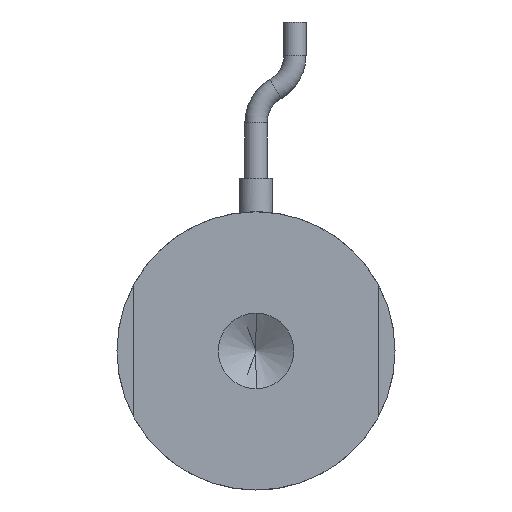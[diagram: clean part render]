
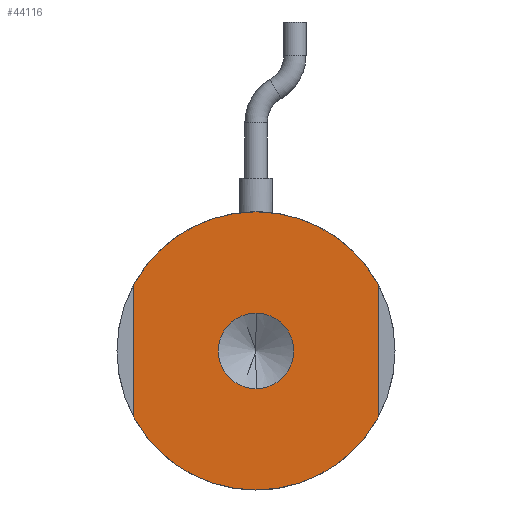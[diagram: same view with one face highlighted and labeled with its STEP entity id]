
A CAD part, front view. The second image highlights one B-rep face of the part: STEP entity #44116.
In plain terms, the highlighted planar face has unit normal (0, -1, 0).
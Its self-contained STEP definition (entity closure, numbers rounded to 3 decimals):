
#804 = DIRECTION ( 'NONE',  ( 0., 0., -1. ) ) ;
#1651 = CARTESIAN_POINT ( 'NONE',  ( 11., 0., 0. ) ) ;
#1785 = DIRECTION ( 'NONE',  ( 0., 0., 1. ) ) ;
#2776 = CARTESIAN_POINT ( 'NONE',  ( 11., 0., -5.937 ) ) ;
#3711 = CIRCLE ( 'NONE', #39500, 12.5 ) ;
#4818 = AXIS2_PLACEMENT_3D ( 'NONE', #36560, #15893, #39984 ) ;
#5200 = EDGE_LOOP ( 'NONE', ( #44878, #11527 ) ) ;
#6101 = CARTESIAN_POINT ( 'NONE',  ( -11., 0., 0. ) ) ;
#6951 = ORIENTED_EDGE ( 'NONE', *, *, #12512, .F. ) ;
#8095 = CARTESIAN_POINT ( 'NONE',  ( 0., 0., 0. ) ) ;
#8571 = CARTESIAN_POINT ( 'NONE',  ( 0., 0., -3.4 ) ) ;
#9262 = VERTEX_POINT ( 'NONE', #20050 ) ;
#9422 = DIRECTION ( 'NONE',  ( 0., 1., 0. ) ) ;
#11527 = ORIENTED_EDGE ( 'NONE', *, *, #30294, .F. ) ;
#11626 = DIRECTION ( 'NONE',  ( 0., 0., 1. ) ) ;
#12512 = EDGE_CURVE ( 'NONE', #12802, #9262, #41240, .T. ) ;
#12757 = CIRCLE ( 'NONE', #4818, 3.4 ) ;
#12802 = VERTEX_POINT ( 'NONE', #38853 ) ;
#13206 = DIRECTION ( 'NONE',  ( 0., 0., 1. ) ) ;
#14567 = CIRCLE ( 'NONE', #34970, 3.4 ) ;
#14598 = EDGE_CURVE ( 'NONE', #26701, #20393, #3711, .T. ) ;
#14706 = FACE_BOUND ( 'NONE', #5200, .T. ) ;
#15642 = CARTESIAN_POINT ( 'NONE',  ( 0., 0., 3.4 ) ) ;
#15835 = FACE_OUTER_BOUND ( 'NONE', #21096, .T. ) ;
#15893 = DIRECTION ( 'NONE',  ( 0., -1., 0. ) ) ;
#16124 = ORIENTED_EDGE ( 'NONE', *, *, #40294, .F. ) ;
#18497 = CARTESIAN_POINT ( 'NONE',  ( 0., 0., 0. ) ) ;
#19382 = VECTOR ( 'NONE', #32996, 1000. ) ;
#20050 = CARTESIAN_POINT ( 'NONE',  ( -11., 0., 5.937 ) ) ;
#20393 = VERTEX_POINT ( 'NONE', #42742 ) ;
#20504 = CARTESIAN_POINT ( 'NONE',  ( 0., 0., 0. ) ) ;
#21096 = EDGE_LOOP ( 'NONE', ( #6951, #24880, #33867, #34856, #16124, #34365 ) ) ;
#21138 = AXIS2_PLACEMENT_3D ( 'NONE', #43377, #22907, #1785 ) ;
#21981 = DIRECTION ( 'NONE',  ( 0., -1., 0. ) ) ;
#22021 = VERTEX_POINT ( 'NONE', #41889 ) ;
#22028 = DIRECTION ( 'NONE',  ( 0., 0., 1. ) ) ;
#22907 = DIRECTION ( 'NONE',  ( 0., 1., 0. ) ) ;
#23984 = DIRECTION ( 'NONE',  ( 0., 0., 1. ) ) ;
#24114 = VECTOR ( 'NONE', #13206, 1000. ) ;
#24880 = ORIENTED_EDGE ( 'NONE', *, *, #29993, .F. ) ;
#26701 = VERTEX_POINT ( 'NONE', #2776 ) ;
#26785 = PLANE ( 'NONE',  #39308 ) ;
#27466 = LINE ( 'NONE', #1651, #19382 ) ;
#29220 = AXIS2_PLACEMENT_3D ( 'NONE', #20504, #44414, #23984 ) ;
#29993 = EDGE_CURVE ( 'NONE', #20393, #12802, #44138, .T. ) ;
#30294 = EDGE_CURVE ( 'NONE', #39046, #33123, #14567, .T. ) ;
#30444 = VERTEX_POINT ( 'NONE', #36379 ) ;
#31556 = AXIS2_PLACEMENT_3D ( 'NONE', #18497, #42511, #22028 ) ;
#32385 = DIRECTION ( 'NONE',  ( 0., 1., 0. ) ) ;
#32996 = DIRECTION ( 'NONE',  ( 0., 0., -1. ) ) ;
#33123 = VERTEX_POINT ( 'NONE', #8571 ) ;
#33685 = DIRECTION ( 'NONE',  ( 0., 0., 1. ) ) ;
#33867 = ORIENTED_EDGE ( 'NONE', *, *, #14598, .F. ) ;
#34365 = ORIENTED_EDGE ( 'NONE', *, *, #44738, .F. ) ;
#34856 = ORIENTED_EDGE ( 'NONE', *, *, #35180, .F. ) ;
#34970 = AXIS2_PLACEMENT_3D ( 'NONE', #42469, #21981, #804 ) ;
#35180 = EDGE_CURVE ( 'NONE', #22021, #26701, #27466, .T. ) ;
#36379 = CARTESIAN_POINT ( 'NONE',  ( 0., 0., 12.5 ) ) ;
#36560 = CARTESIAN_POINT ( 'NONE',  ( 0., 0., 0. ) ) ;
#36999 = CIRCLE ( 'NONE', #29220, 12.5 ) ;
#37080 = EDGE_CURVE ( 'NONE', #33123, #39046, #12757, .T. ) ;
#38853 = CARTESIAN_POINT ( 'NONE',  ( -11., 0., -5.937 ) ) ;
#39046 = VERTEX_POINT ( 'NONE', #15642 ) ;
#39308 = AXIS2_PLACEMENT_3D ( 'NONE', #43783, #9422, #33685 ) ;
#39500 = AXIS2_PLACEMENT_3D ( 'NONE', #8095, #32385, #11626 ) ;
#39984 = DIRECTION ( 'NONE',  ( 0., 0., -1. ) ) ;
#40294 = EDGE_CURVE ( 'NONE', #30444, #22021, #36999, .T. ) ;
#41240 = LINE ( 'NONE', #6101, #24114 ) ;
#41889 = CARTESIAN_POINT ( 'NONE',  ( 11., 0., 5.937 ) ) ;
#42469 = CARTESIAN_POINT ( 'NONE',  ( 0., 0., 0. ) ) ;
#42511 = DIRECTION ( 'NONE',  ( 0., 1., 0. ) ) ;
#42742 = CARTESIAN_POINT ( 'NONE',  ( 0., 0., -12.5 ) ) ;
#43377 = CARTESIAN_POINT ( 'NONE',  ( 0., 0., 0. ) ) ;
#43783 = CARTESIAN_POINT ( 'NONE',  ( 0., 0., 0. ) ) ;
#44116 = ADVANCED_FACE ( 'NONE', ( #14706, #15835 ), #26785, .F. ) ;
#44138 = CIRCLE ( 'NONE', #21138, 12.5 ) ;
#44325 = CIRCLE ( 'NONE', #31556, 12.5 ) ;
#44414 = DIRECTION ( 'NONE',  ( 0., 1., 0. ) ) ;
#44738 = EDGE_CURVE ( 'NONE', #9262, #30444, #44325, .T. ) ;
#44878 = ORIENTED_EDGE ( 'NONE', *, *, #37080, .F. ) ;
